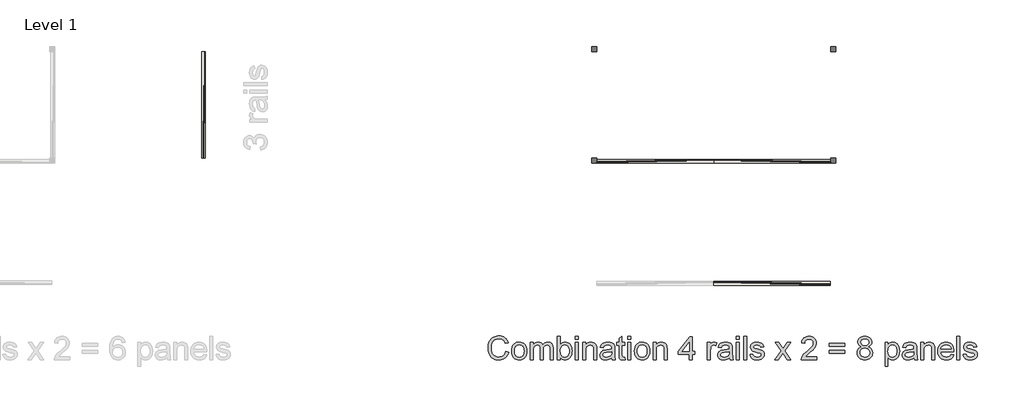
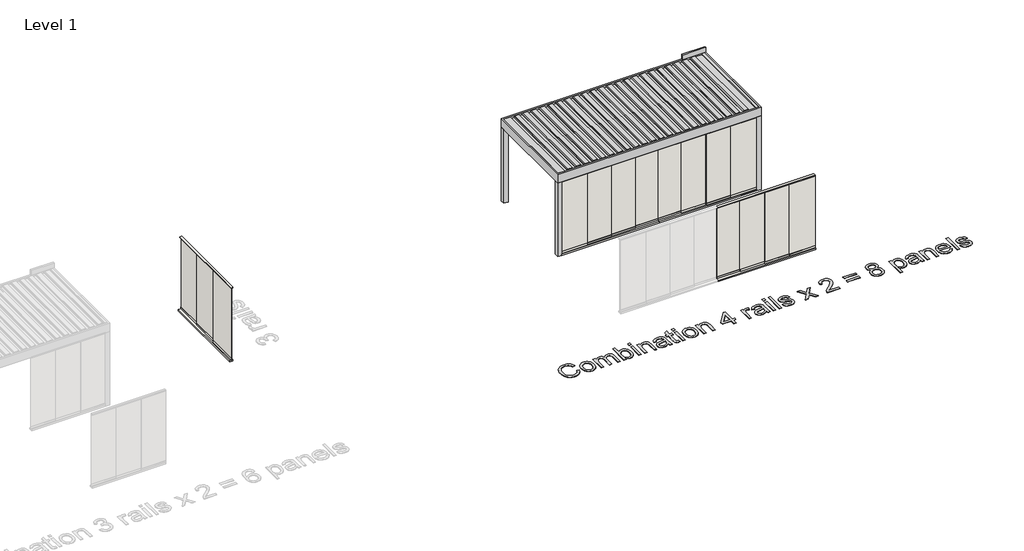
# One storey, part 18 of 47: 4 walls, 2 proxies.
"""IFC4 building model written with IfcOpenShell, lengths in millimetres."""

from ifc_helpers import new_model, si_unit, origin, origin_with_axes, place, context, project, spatial, polyline, outline, extrude, transform, mapped, element, save
from components import generic_models_dd638f6f, wall_bdcc315b, wall_12b1d7bd, wall_39287447

model = new_model("IFC4")

# Units and contexts
model_context = context("Model", 3, world=origin())
ifc_project = project(units=[si_unit("LENGTHUNIT", "METRE", prefix="MILLI")], contexts=[model_context])

# Site, building, storey
site = spatial("IfcSite", under=ifc_project)
building = spatial("IfcBuilding", under=site)
storey = spatial("IfcBuildingStorey", under=building, Name="Level 1", Elevation=0.0)

# Proxies
placement = place(None, origin())
generic_models_shape = generic_models_dd638f6f(model_context)
element("IfcBuildingElementProxy", 1, Name="Renson_Algarve_Single : Algarve - Single", ObjectType="Renson_Algarve_Single : Algarve - Single", at=placement, inside=storey, context=model_context, shape_type="MappedRepresentation", body=[
    mapped(generic_models_shape, transform((204460.1485758, -40247.1209465, 0.0), x_axis=(1.0, 0.0, 0.0), y_axis=(0.0, 1.0, 0.0), z_axis=(0.0, 0.0, 1.0))),
])
element("IfcBuildingElementProxy", 2, Name="500mm Arial", ObjectType="500mm Arial", at=placement, inside=storey, context=model_context, shape_type="SweptSolid", body=[
    extrude(outline(polyline([(200011.1040296, -45527.1410511), (200073.8892234, -45543.3278589), (200061.4655419, -45582.3731678), (200044.9185163, -45616.4903907), (200024.2481467, -45645.6795278), (199999.454433, -45669.9405789), (199971.0968626, -45689.0129611), (199939.7349225, -45702.6360912), (199905.3686128, -45710.8099693), (199867.9979334, -45713.5345953), (199829.7113812, -45711.4729233), (199795.1726268, -45705.2879073), (199764.3816702, -45694.9795472), (199737.3385115, -45680.5478431), (199713.6714365, -45662.2073928), (199693.0087311, -45640.1727941), (199675.3503953, -45614.4440471), (199660.6964291, -45585.0211517), (199649.1886205, -45553.1763665), (199640.9687572, -45520.18195), (199636.0368392, -45486.0379024), (199634.3928665, -45450.7442235), (199636.251437, -45412.8753706), (199641.8271485, -45377.5050496), (199651.120001, -45344.6332605), (199664.1299944, -45314.2600032), (199680.565889, -45286.8872835), (199700.1364447, -45263.017107), (199722.8416616, -45242.6494736), (199748.6815397, -45225.7843834), (199776.778527, -45212.5597921), (199806.2550719, -45203.1136555), (199837.1111743, -45197.4459735), (199869.3468341, -45195.5567461), (199905.2574818, -45198.0016286), (199938.1867524, -45205.3362758), (199968.1346461, -45217.560688), (199995.1011628, -45234.674865), (200018.6417784, -45256.2266185), (200038.3119688, -45281.7637603), (200054.1117341, -45311.2862905), (200066.0410742, -45344.7942088), (200003.2558803, -45359.7547433), (199993.3690517, -45335.0644965), (199981.4895289, -45313.9687633), (199967.617312, -45296.4675438), (199951.752401, -45282.560838), (199933.8028253, -45271.9650701), (199913.6766145, -45264.3966645), (199891.3737685, -45259.8556211), (199866.8942874, -45258.34194), (199838.7283222, -45260.0204016), (199812.9689183, -45265.0557864), (199789.6160758, -45273.4480944), (199768.6697947, -45285.1973256), (199750.3944902, -45299.7746497), (199735.0545774, -45316.6512362), (199722.6500564, -45335.8270852), (199713.1809271, -45357.3021967), (199701.178777, -45403.2567892), (199697.1780603, -45450.6215961), (199701.914541, -45508.624324), (199716.1239831, -45558.7789027), (199726.9151883, -45580.4341231), (199740.3428811, -45599.1692801), (199756.4070616, -45614.9843738), (199775.1077296, -45627.8794041), (199816.785694, -45645.0319022), (199861.7439395, -45650.7494015), (199889.0400171, -45648.8026926), (199914.1517954, -45642.9625659), (199937.0792743, -45633.2290215), (199957.8224539, -45619.6020592), (199975.8908248, -45602.1429929), (199990.7938777, -45580.9131361), (200002.5316126, -45555.9124888), (200011.1040296, -45527.1410511)])), origin_with_axes(), (0.0, 0.0, 1.0), 5.0),
    extrude(outline(polyline([(200136.6744172, -45521.2549392), (200140.0696615, -45473.4839293), (200150.2553942, -45432.3194669), (200167.2316155, -45397.7615519), (200190.9983252, -45369.8101845), (200214.9259833, -45351.9449151), (200241.3368449, -45339.1840084), (200270.2309099, -45331.5274644), (200301.6081784, -45328.9752831), (200336.2465675, -45332.0831195), (200367.5663545, -45341.4066288), (200395.5675392, -45356.945811), (200420.2501219, -45378.7006661), (200440.3954932, -45405.93543), (200454.7850442, -45437.9143389), (200463.4187747, -45474.6373926), (200466.2966849, -45516.1045913), (200461.2076507, -45579.5335786), (200454.8463578, -45605.568894), (200445.9405479, -45627.8180905), (200434.6013518, -45647.0360926), (200420.9399006, -45663.9778249), (200404.9561943, -45678.6432874), (200386.650233, -45691.03248), (200345.9226304, -45707.9090665), (200301.6081784, -45713.5345953), (200266.4639516, -45710.4382552), (200234.8529247, -45701.1492348), (200206.7750978, -45685.6675342), (200182.230471, -45663.9931533), (200162.2996975, -45636.4939742), (200148.0634307, -45603.5378788), (200139.5216706, -45565.1248671), (200136.6744172, -45521.2549392)]), holes=[polyline([(200199.4596111, -45521.1323119), (200201.2760284, -45551.5860433), (200206.7252805, -45577.9547517), (200215.8073672, -45600.2384371), (200228.5222887, -45618.4370996), (200243.9886609, -45632.5737317), (200261.3250999, -45642.671326), (200280.5316058, -45648.7298826), (200301.6081784, -45650.7494015), (200322.5774521, -45648.7183863), (200341.7073159, -45642.6253408), (200358.9977697, -45632.4702649), (200374.4488135, -45618.2531586), (200387.1637349, -45599.8743872), (200396.2458217, -45577.2343161), (200401.6950737, -45550.3329452), (200403.5114911, -45519.1702746), (200401.6835774, -45489.6822334), (200396.1998364, -45464.0033037), (200387.0602681, -45442.1334855), (200374.2648725, -45424.0727788), (200358.7563471, -45409.9361467), (200341.4773896, -45399.8385524), (200322.4280001, -45393.7799958), (200301.6081784, -45391.7604769), (200280.5316058, -45393.7723316), (200261.3250999, -45399.8078955), (200243.9886609, -45409.8671688), (200228.5222887, -45423.9501515), (200215.8073672, -45442.0951645), (200206.7252805, -45464.3405289), (200201.2760284, -45490.6862447), (200199.4596111, -45521.1323119)])]), origin_with_axes(), (0.0, 0.0, 1.0), 5.0),
    extrude(outline(polyline([(200536.930028, -45705.6864461), (200536.930028, -45336.8234323), (200599.7152218, -45336.8234323), (200599.7152218, -45397.5239615), (200618.5998309, -45369.6415719), (200642.8800426, -45347.7985785), (200671.7281224, -45333.6811069), (200704.3163358, -45328.9752831), (200739.2344685, -45333.7730774), (200767.224157, -45348.1664605), (200788.132117, -45371.2050704), (200801.8050645, -45401.9385454), (200824.6903903, -45370.0171181), (200850.7946835, -45347.2160986), (200880.1179442, -45333.535487), (200912.6601724, -45328.9752831), (200937.7949433, -45330.8721746), (200959.8563667, -45336.5628492), (200978.8444426, -45346.0473069), (200994.759171, -45359.3255477), (201007.3399688, -45376.5508557), (201016.326253, -45397.8765151), (201021.7180235, -45423.3025259), (201023.5152803, -45452.8288881), (201023.5152803, -45705.6864461), (200960.7300864, -45705.6864461), (200960.7300864, -45479.8069011), (200959.2738869, -45448.4909462), (200954.9052882, -45427.3837168), (200946.7199138, -45412.92902), (200933.8133871, -45401.5706634), (200917.2127121, -45394.2130235), (200897.9448926, -45391.7604769), (200880.1524332, -45393.3316396), (200863.9311365, -45398.0451276), (200849.2810024, -45405.9009411), (200836.2020311, -45416.8990799), (200825.4453148, -45431.3614408), (200817.7619461, -45449.6099206), (200813.1519248, -45471.6445193), (200811.6152511, -45497.4652368), (200811.6152511, -45705.6864461), (200748.8300572, -45705.6864461), (200748.8300572, -45472.8171432), (200745.1972225, -45437.3165306), (200734.2987184, -45411.9939866), (200725.8719215, -45403.1418261), (200715.1228694, -45396.8188543), (200686.658, -45391.7604769), (200662.4697588, -45395.1327285), (200640.1822413, -45405.2494834), (200621.7881415, -45421.8654868), (200609.2801537, -45444.7354842), (200602.1064548, -45476.4653063), (200599.7152218, -45519.6607839), (200599.7152218, -45705.6864461), (200536.930028, -45705.6864461)])), origin_with_axes(), (0.0, 0.0, 1.0), 5.0),
    extrude(outline(polyline([(201180.4782649, -45705.6864461), (201117.693071, -45705.6864461), (201117.693071, -45203.4048954), (201180.4782649, -45203.4048954), (201180.4782649, -45389.6758123), (201201.1256419, -45363.1193307), (201224.4401633, -45344.1504154), (201250.4218292, -45332.7690661), (201279.0706396, -45328.9752831), (201311.4135983, -45332.3935199), (201341.9784608, -45342.6482305), (201369.0177874, -45359.0956214), (201390.7841388, -45381.091899), (201407.8446663, -45408.4224656), (201420.7665214, -45440.8727233), (201428.9059105, -45477.0937714), (201431.6190403, -45515.7367093), (201428.8101079, -45560.3270728), (201420.383311, -45599.5524905), (201406.3386494, -45633.4129625), (201386.6761232, -45661.9084887), (201363.0741939, -45684.4949103), (201337.2113233, -45700.6280687), (201309.0875111, -45710.3079637), (201278.7027576, -45713.5345953), (201249.1112496, -45709.3729303), (201222.8766648, -45696.8879351), (201199.9990033, -45676.0796097), (201180.4782649, -45646.9479542), (201180.4782649, -45705.6864461)]), holes=[polyline([(201180.4782649, -45518.6797652), (201184.7702215, -45571.0416359), (201190.1351673, -45590.8766068), (201197.6460913, -45606.4809347), (201212.8595447, -45625.848389), (201230.5408731, -45639.6822848), (201250.6900765, -45647.9826223), (201273.307155, -45650.7494015), (201292.0844652, -45648.7107221), (201309.5435315, -45642.5946839), (201325.6843541, -45632.401287), (201340.5069328, -45618.1305313), (201352.8999575, -45599.8207378), (201361.752118, -45577.5102276), (201367.0634143, -45551.1990008), (201368.8338464, -45520.8870572), (201367.1362243, -45490.000298), (201362.0433579, -45463.4361523), (201353.5552473, -45441.19462), (201341.6718924, -45423.2757011), (201327.3819762, -45409.4877905), (201311.6741814, -45399.639283), (201294.5485081, -45393.7301784), (201276.0049563, -45391.7604769), (201257.2276461, -45393.7991563), (201239.7685798, -45399.9151945), (201223.6277572, -45410.1085914), (201208.8051785, -45424.3793471), (201196.4121538, -45442.5051996), (201187.5599933, -45464.2638868), (201182.248697, -45489.6554087), (201180.4782649, -45518.6797652)])]), origin_with_axes(), (0.0, 0.0, 1.0), 5.0),
    extrude(outline(polyline([(201502.2523833, -45705.6864461), (201502.2523833, -45336.8234323), (201565.0375772, -45336.8234323), (201565.0375772, -45705.6864461), (201502.2523833, -45705.6864461)])), origin_with_axes(), (0.0, 0.0, 1.0), 5.0),
    extrude(outline(polyline([(201502.2523833, -45266.1900892), (201502.2523833, -45203.4048954), (201565.0375772, -45203.4048954), (201565.0375772, -45266.1900892), (201502.2523833, -45266.1900892)])), origin_with_axes(), (0.0, 0.0, 1.0), 5.0),
    extrude(outline(polyline([(201659.2153679, -45705.6864461), (201659.2153679, -45336.8234323), (201722.0005618, -45336.8234323), (201722.0005618, -45388.3269116), (201743.8128984, -45362.3605741), (201770.0091622, -45343.8131902), (201800.589353, -45332.6847598), (201835.553471, -45328.9752831), (201866.5015438, -45331.9643243), (201894.8437859, -45340.9314479), (201918.480204, -45354.7576795), (201935.3108053, -45372.3240448), (201946.7304756, -45393.5845585), (201954.1341007, -45418.4932352), (201957.4450387, -45479.1937644), (201957.4450387, -45705.6864461), (201894.6598449, -45705.6864461), (201894.6598449, -45487.6550503), (201892.8510917, -45455.1894642), (201887.4248323, -45432.104869), (201877.4153763, -45415.5655077), (201861.8570336, -45402.7356231), (201841.9147638, -45394.5042634), (201818.7535265, -45391.7604769), (201799.6888085, -45393.3009827), (201781.9806554, -45397.9225003), (201765.6290672, -45405.6250296), (201750.6340437, -45416.4085706), (201738.1068954, -45431.4993966), (201729.1589323, -45452.1237809), (201723.7901544, -45478.2817236), (201722.0005618, -45509.9732247), (201722.0005618, -45705.6864461), (201659.2153679, -45705.6864461)])), origin_with_axes(), (0.0, 0.0, 1.0), 5.0),
    extrude(outline(polyline([(202279.2191572, -45658.5975507), (202249.2214461, -45684.3186336), (202218.3346869, -45701.1492348), (202185.8537725, -45710.4382552), (202151.0735955, -45713.5345953), (202123.118396, -45711.6721927), (202098.6044259, -45706.0849849), (202077.5316854, -45696.7729719), (202059.9001744, -45683.7361537), (202045.9781401, -45667.8022648), (202036.0338299, -45649.7990397), (202030.0672438, -45629.7264783), (202028.0783818, -45607.5845807), (202031.0827514, -45581.5569296), (202040.0958603, -45557.9205114), (202053.998734, -45537.6870016), (202071.6723982, -45521.8680759), (202092.4424025, -45509.911911), (202115.6342966, -45501.2666841), (202169.9582046, -45491.8243796), (202234.1536127, -45481.8915657), (202278.8512752, -45470.2419692), (202279.2191572, -45456.2624534), (202274.8965437, -45428.2421081), (202261.9287034, -45409.909322), (202248.8535641, -45401.9692023), (202232.9273394, -45396.2976882), (202192.5216336, -45391.7604769), (202155.1202974, -45394.7801749), (202129.0006758, -45403.8392691), (202111.1890559, -45420.5932283), (202098.7117249, -45446.6975215), (202035.926531, -45438.8493723), (202046.8250351, -45404.5137194), (202063.088485, -45377.5357064), (202086.2343938, -45356.9036579), (202117.7802749, -45341.6058982), (202156.3618992, -45332.1329368), (202200.6150375, -45328.9752831), (202243.0594227, -45331.7650548), (202276.7052969, -45340.1343702), (202302.0738261, -45352.7190002), (202319.6861766, -45368.1547155), (202331.36643, -45387.238594), (202338.9386677, -45410.7677133), (202342.004351, -45465.7047579), (202342.004351, -45543.8183682), (202345.1926616, -45652.8953798), (202349.9138139, -45679.8580644), (202357.7006495, -45705.6864461), (202294.9154556, -45705.6864461), (202284.8600144, -45683.8587811), (202279.2191572, -45658.5975507)]), holes=[polyline([(202279.2191572, -45533.027163), (202237.035355, -45543.4811431), (202177.9289811, -45552.2796541), (202123.9116415, -45562.4577227), (202109.8554836, -45569.4168237), (202099.4474888, -45579.0124124), (202093.0095539, -45590.5087248), (202090.8635756, -45603.1699968), (202095.5387426, -45621.840008), (202109.5642437, -45637.1377677), (202132.6335105, -45647.346493), (202164.4399747, -45650.7494015), (202198.1624909, -45646.9939395), (202227.9609325, -45635.7275534), (202252.1185168, -45619.1268783), (202268.9184613, -45599.3685495), (202276.3680717, -45579.0124124), (202278.8512752, -45550.8081261), (202279.2191572, -45533.027163)])]), origin_with_axes(), (0.0, 0.0, 1.0), 5.0),
    extrude(outline(polyline([(202561.7525294, -45653.3245755), (202569.6006787, -45707.5258561), (202522.6344106, -45713.5345953), (202492.4987439, -45710.9287645), (202470.0272853, -45703.1112721), (202454.1470459, -45691.0631368), (202443.7850363, -45675.7653772), (202438.0828654, -45649.4924713), (202436.1821418, -45604.5188974), (202436.1821418, -45399.6086261), (202389.0932464, -45399.6086261), (202389.0932464, -45336.8234323), (202436.1821418, -45336.8234323), (202436.1821418, -45247.1828528), (202498.9673356, -45210.2720259), (202498.9673356, -45336.8234323), (202561.7525294, -45336.8234323), (202561.7525294, -45399.6086261), (202498.9673356, -45399.6086261), (202498.9673356, -45602.6794875), (202502.2782736, -45635.053103), (202513.0081651, -45646.5187586), (202534.4066345, -45650.7494015), (202561.7525294, -45653.3245755)])), origin_with_axes(), (0.0, 0.0, 1.0), 5.0),
    extrude(outline(polyline([(202624.5377233, -45705.6864461), (202624.5377233, -45336.8234323), (202687.3229171, -45336.8234323), (202687.3229171, -45705.6864461), (202624.5377233, -45705.6864461)])), origin_with_axes(), (0.0, 0.0, 1.0), 5.0),
    extrude(outline(polyline([(202624.5377233, -45266.1900892), (202624.5377233, -45203.4048954), (202687.3229171, -45203.4048954), (202687.3229171, -45266.1900892), (202624.5377233, -45266.1900892)])), origin_with_axes(), (0.0, 0.0, 1.0), 5.0),
    extrude(outline(polyline([(202765.8044094, -45521.2549392), (202769.1996537, -45473.4839293), (202779.3853864, -45432.3194669), (202796.3616077, -45397.7615519), (202820.1283174, -45369.8101845), (202844.0559755, -45351.9449151), (202870.4668371, -45339.1840084), (202899.3609021, -45331.5274644), (202930.7381706, -45328.9752831), (202965.3765597, -45332.0831195), (202996.6963467, -45341.4066288), (203024.6975314, -45356.945811), (203049.3801141, -45378.7006661), (203069.5254854, -45405.93543), (203083.9150364, -45437.9143389), (203092.5487669, -45474.6373926), (203095.4266771, -45516.1045913), (203090.3376429, -45579.5335786), (203083.97635, -45605.568894), (203075.0705401, -45627.8180905), (203063.731344, -45647.0360926), (203050.0698928, -45663.9778249), (203034.0861865, -45678.6432874), (203015.7802252, -45691.03248), (202975.0526226, -45707.9090665), (202930.7381706, -45713.5345953), (202895.5939438, -45710.4382552), (202863.9829169, -45701.1492348), (202835.90509, -45685.6675342), (202811.3604632, -45663.9931533), (202791.4296897, -45636.4939742), (202777.1934229, -45603.5378788), (202768.6516628, -45565.1248671), (202765.8044094, -45521.2549392)]), holes=[polyline([(202828.5896033, -45521.1323119), (202830.4060206, -45551.5860433), (202835.8552727, -45577.9547517), (202844.9373594, -45600.2384371), (202857.6522809, -45618.4370996), (202873.1186531, -45632.5737317), (202890.4550921, -45642.671326), (202909.661598, -45648.7298826), (202930.7381706, -45650.7494015), (202951.7074443, -45648.7183863), (202970.8373081, -45642.6253408), (202988.1277619, -45632.4702649), (203003.5788057, -45618.2531586), (203016.2937271, -45599.8743872), (203025.3758139, -45577.2343161), (203030.8250659, -45550.3329452), (203032.6414833, -45519.1702746), (203030.8135696, -45489.6822334), (203025.3298286, -45464.0033037), (203016.1902603, -45442.1334855), (203003.3948647, -45424.0727788), (202987.8863393, -45409.9361467), (202970.6073818, -45399.8385524), (202951.5579923, -45393.7799958), (202930.7381706, -45391.7604769), (202909.661598, -45393.7723316), (202890.4550921, -45399.8078955), (202873.1186531, -45409.8671688), (202857.6522809, -45423.9501515), (202844.9373594, -45442.0951645), (202835.8552727, -45464.3405289), (202830.4060206, -45490.6862447), (202828.5896033, -45521.1323119)])]), origin_with_axes(), (0.0, 0.0, 1.0), 5.0),
    extrude(outline(polyline([(203166.0600202, -45705.6864461), (203166.0600202, -45336.8234323), (203228.845214, -45336.8234323), (203228.845214, -45388.3269116), (203250.6575507, -45362.3605741), (203276.8538144, -45343.8131902), (203307.4340053, -45332.6847598), (203342.3981232, -45328.9752831), (203373.3461961, -45331.9643243), (203401.6884381, -45340.9314479), (203425.3248563, -45354.7576795), (203442.1554576, -45372.3240448), (203453.5751278, -45393.5845585), (203460.978753, -45418.4932352), (203464.2896909, -45479.1937644), (203464.2896909, -45705.6864461), (203401.5044971, -45705.6864461), (203401.5044971, -45487.6550503), (203399.695744, -45455.1894642), (203394.2694845, -45432.104869), (203384.2600286, -45415.5655077), (203368.7016859, -45402.7356231), (203348.759416, -45394.5042634), (203325.5981788, -45391.7604769), (203306.5334608, -45393.3009827), (203288.8253077, -45397.9225003), (203272.4737194, -45405.6250296), (203257.478696, -45416.4085706), (203244.9515476, -45431.4993966), (203236.0035845, -45452.1237809), (203230.6348067, -45478.2817236), (203228.845214, -45509.9732247), (203228.845214, -45705.6864461), (203166.0600202, -45705.6864461)])), origin_with_axes(), (0.0, 0.0, 1.0), 5.0),
    extrude(outline(polyline([(203935.1786448, -45705.6864461), (203935.1786448, -45587.9642077), (203707.5823171, -45587.9642077), (203707.5823171, -45525.1790138), (203950.8749432, -45211.2530446), (203997.9638386, -45211.2530446), (203997.9638386, -45525.1790138), (204060.7490325, -45525.1790138), (204060.7490325, -45587.9642077), (203997.9638386, -45587.9642077), (203997.9638386, -45705.6864461), (203935.1786448, -45705.6864461)]), holes=[polyline([(203935.1786448, -45525.1790138), (203935.1786448, -45331.182575), (203784.8375361, -45525.1790138), (203935.1786448, -45525.1790138)])]), origin_with_axes(), (0.0, 0.0, 1.0), 5.0),
    extrude(outline(polyline([(204327.5861063, -45705.6864461), (204327.5861063, -45336.8234323), (204382.5231509, -45336.8234323), (204382.5231509, -45391.3925949), (204402.8179743, -45359.7547433), (204421.5186424, -45341.1153889), (204440.2806242, -45332.0103095), (204460.7593885, -45328.9752831), (204492.0293581, -45333.8190627), (204523.7898371, -45348.3504015), (204502.8205633, -45404.6363467), (204480.7476436, -45394.9794444), (204458.6747239, -45391.7604769), (204439.9280706, -45394.856817), (204423.1741114, -45404.1458374), (204409.6391196, -45418.9224309), (204400.5493687, -45438.4814903), (204392.9158173, -45473.5529072), (204390.3713001, -45511.8126347), (204390.3713001, -45705.6864461), (204327.5861063, -45705.6864461)])), origin_with_axes(), (0.0, 0.0, 1.0), 5.0),
    extrude(outline(polyline([(204798.4750601, -45658.5975507), (204768.4773491, -45684.3186336), (204737.5905899, -45701.1492348), (204705.1096754, -45710.4382552), (204670.3294985, -45713.5345953), (204642.3742989, -45711.6721927), (204617.8603289, -45706.0849849), (204596.7875884, -45696.7729719), (204579.1560773, -45683.7361537), (204565.2340431, -45667.8022648), (204555.2897329, -45649.7990397), (204549.3231468, -45629.7264783), (204547.3342847, -45607.5845807), (204550.3386544, -45581.5569296), (204559.3517633, -45557.9205114), (204573.254637, -45537.6870016), (204590.9283012, -45521.8680759), (204611.6983055, -45509.911911), (204634.8901996, -45501.2666841), (204689.2141076, -45491.8243796), (204753.4095157, -45481.8915657), (204798.1071781, -45470.2419692), (204798.4750601, -45456.2624534), (204794.1524467, -45428.2421081), (204781.1846063, -45409.909322), (204768.1094671, -45401.9692023), (204752.1832424, -45396.2976882), (204711.7775366, -45391.7604769), (204674.3762004, -45394.7801749), (204648.2565788, -45403.8392691), (204630.4449588, -45420.5932283), (204617.9676278, -45446.6975215), (204555.182434, -45438.8493723), (204566.0809381, -45404.5137194), (204582.344388, -45377.5357064), (204605.4902968, -45356.9036579), (204637.0361779, -45341.6058982), (204675.6178021, -45332.1329368), (204719.8709405, -45328.9752831), (204762.3153257, -45331.7650548), (204795.9611998, -45340.1343702), (204821.3297291, -45352.7190002), (204838.9420796, -45368.1547155), (204850.6223329, -45387.238594), (204858.1945707, -45410.7677133), (204861.260254, -45465.7047579), (204861.260254, -45543.8183682), (204864.4485646, -45652.8953798), (204869.1697169, -45679.8580644), (204876.9565524, -45705.6864461), (204814.1713586, -45705.6864461), (204804.1159174, -45683.8587811), (204798.4750601, -45658.5975507)]), holes=[polyline([(204798.4750601, -45533.027163), (204756.291258, -45543.4811431), (204697.1848841, -45552.2796541), (204643.1675445, -45562.4577227), (204629.1113866, -45569.4168237), (204618.7033918, -45579.0124124), (204612.2654569, -45590.5087248), (204610.1194786, -45603.1699968), (204614.7946456, -45621.840008), (204628.8201467, -45637.1377677), (204651.8894135, -45647.346493), (204683.6958776, -45650.7494015), (204717.4183939, -45646.9939395), (204747.2168355, -45635.7275534), (204771.3744198, -45619.1268783), (204788.1743643, -45599.3685495), (204795.6239747, -45579.0124124), (204798.1071781, -45550.8081261), (204798.4750601, -45533.027163)])]), origin_with_axes(), (0.0, 0.0, 1.0), 5.0),
    extrude(outline(polyline([(204947.5898955, -45266.1900892), (204947.5898955, -45203.4048954), (205010.3750893, -45203.4048954), (205010.3750893, -45266.1900892), (204947.5898955, -45266.1900892)])), origin_with_axes(), (0.0, 0.0, 1.0), 5.0),
    extrude(outline(polyline([(204947.5898955, -45705.6864461), (204947.5898955, -45336.8234323), (205010.3750893, -45336.8234323), (205010.3750893, -45705.6864461), (204947.5898955, -45705.6864461)])), origin_with_axes(), (0.0, 0.0, 1.0), 5.0),
    extrude(outline(polyline([(205104.5528801, -45705.6864461), (205104.5528801, -45203.4048954), (205167.338074, -45203.4048954), (205167.338074, -45705.6864461), (205104.5528801, -45705.6864461)])), origin_with_axes(), (0.0, 0.0, 1.0), 5.0),
    extrude(outline(polyline([(205237.971417, -45595.8123569), (205300.7566109, -45587.9642077), (205310.6587679, -45614.8195933), (205329.8192885, -45634.5625937), (205358.3607999, -45646.7026996), (205396.4059296, -45650.7494015), (205433.9912068, -45647.0399247), (205460.4173968, -45635.9114944), (205476.0523816, -45619.7860002), (205481.2640432, -45601.0853322), (205476.0217247, -45585.0824654), (205460.2947694, -45572.8810459), (205395.6701656, -45554.9774554), (205338.3725449, -45538.4074372), (205301.1244929, -45524.2593088), (205277.1968348, -45508.8235934), (205259.8603957, -45488.3908143), (205249.3297736, -45464.2638868), (205245.8195663, -45437.7457263), (205248.6399949, -45413.4195294), (205257.1012808, -45390.9633992), (205270.4370031, -45371.2663841), (205287.880741, -45355.217532), (205305.2171801, -45345.1161056), (205327.7959375, -45336.6394913), (205353.9002308, -45330.8913351), (205381.8132771, -45328.9752831), (205422.6788354, -45332.0562948), (205458.2101048, -45341.2993299), (205486.7822731, -45355.8000119), (205506.7705282, -45374.6539641), (205520.01428, -45399.2560725), (205528.3529386, -45431.001223), (205465.5677447, -45438.8493723), (205457.6429534, -45419.0910435), (205441.9619834, -45404.2071511), (205418.3715504, -45394.8721454), (205386.7183704, -45391.7604769), (205350.6659349, -45394.7341897), (205326.6309779, -45403.6553281), (205313.1113145, -45416.5311979), (205308.6047601, -45431.369105), (205310.4748269, -45441.0260074), (205316.0850273, -45449.6405775), (205325.680616, -45457.3354425), (205339.5068477, -45463.497466), (205393.585501, -45476.8638451), (205485.7399408, -45506.4170321), (205510.0814661, -45520.549832), (205528.5368796, -45539.8942936), (205540.1711476, -45564.5117305), (205544.049237, -45594.4634562), (205539.4966973, -45625.4268575), (205525.8390783, -45654.5508488), (205503.597546, -45679.551496), (205473.2932666, -45698.1448652), (205436.6890081, -45709.6871628), (205395.5475383, -45713.5345953), (205361.7560442, -45711.679857), (205332.2411783, -45706.1156418), (205307.0029406, -45696.8419498), (205286.0413311, -45683.8587811), (205268.9194899, -45667.2274492), (205255.2005571, -45647.0092679), (205244.8845329, -45623.2042371), (205237.971417, -45595.8123569)])), origin_with_axes(), (0.0, 0.0, 1.0), 5.0),
    extrude(outline(polyline([(205771.6455647, -45705.6864461), (205905.7998656, -45520.2739205), (205779.4937139, -45336.8234323), (205855.0321503, -45336.8234323), (205915.9779341, -45425.1151111), (205944.4274751, -45466.8084039), (205969.0755688, -45432.7180057), (206038.4826385, -45336.8234323), (206114.0210749, -45336.8234323), (205981.3383019, -45520.2739205), (206109.1159816, -45705.6864461), (206033.5775453, -45705.6864461), (205956.6902083, -45594.2182016), (205942.5880651, -45573.8620645), (205847.184001, -45705.6864461), (205771.6455647, -45705.6864461)])), origin_with_axes(), (0.0, 0.0, 1.0), 5.0),
    extrude(outline(polyline([(206666.334577, -45642.9012523), (206666.334577, -45705.6864461), (206336.7123093, -45705.6864461), (206338.0918668, -45683.5828696), (206343.4568125, -45662.398998), (206358.9385132, -45628.5691829), (206381.5939127, -45595.7510432), (206414.3660671, -45561.4000619), (206460.1980323, -45522.9717218), (206527.9496331, -45462.7923588), (206568.6005936, -45418.3706079), (206588.9260738, -45382.3181724), (206594.0074439, -45364.6598366), (206595.7012339, -45347.2467555), (206594.1032465, -45330.8645104), (206589.3092842, -45315.8081733), (206581.3193471, -45302.0777443), (206570.1334352, -45289.6732232), (206556.3723493, -45279.3993521), (206540.6568904, -45272.0608727), (206522.9870583, -45267.6577851), (206503.3628531, -45266.1900892), (206464.198749, -45271.922917), (206447.893146, -45279.0889517), (206433.7718423, -45289.1214002), (206422.34834, -45301.6830375), (206414.1361409, -45316.4366384), (206409.135245, -45333.3822028), (206407.3456524, -45352.5197307), (206344.5604585, -45344.6715815), (206349.9598932, -45312.2596449), (206359.7815761, -45283.9403955), (206374.0255071, -45259.7138333), (206392.6916862, -45239.5799582), (206415.3509179, -45223.7533682), (206441.5740063, -45212.4486611), (206471.3609516, -45205.6658368), (206504.7117538, -45203.4048954), (206538.36146, -45205.9187557), (206568.3093537, -45213.4603366), (206594.5554348, -45226.0296381), (206617.0997033, -45243.6266602), (206635.2063952, -45264.9484875), (206648.1397466, -45288.6922046), (206655.8997575, -45314.8578115), (206658.4864277, -45343.4453082), (206655.6966559, -45373.4736761), (206647.3273405, -45402.9808777), (206632.474105, -45432.9939172), (206610.2325727, -45464.5397983), (206574.7779454, -45502.2017175), (206520.2854249, -45550.5628715), (206448.0579265, -45610.9568324), (206419.7310129, -45642.9012523), (206666.334577, -45642.9012523)])), origin_with_axes(), (0.0, 0.0, 1.0), 5.0),
    extrude(outline(polyline([(207262.7939185, -45415.3049246), (206933.1716508, -45415.3049246), (206933.1716508, -45352.5197307), (207262.7939185, -45352.5197307), (207262.7939185, -45415.3049246)])), origin_with_axes(), (0.0, 0.0, 1.0), 5.0),
    extrude(outline(polyline([(207262.7939185, -45564.41976), (206933.1716508, -45564.41976), (206933.1716508, -45501.6345661), (207262.7939185, -45501.6345661), (207262.7939185, -45564.41976)])), origin_with_axes(), (0.0, 0.0, 1.0), 5.0),
    extrude(outline(polyline([(207621.1109818, -45429.0391857), (207587.4957645, -45412.484496), (207563.9053315, -45390.0436943), (207549.971801, -45362.1766331), (207545.3272908, -45329.343165), (207547.8564795, -45303.7370453), (207555.4440456, -45280.2615755), (207568.0899892, -45258.9167556), (207585.7943102, -45239.7025856), (207607.7062816, -45223.8223461), (207632.9751761, -45212.4793179), (207661.6009939, -45205.673501), (207693.5837348, -45203.4048954), (207725.71976, -45205.7271505), (207754.5601755, -45212.6939157), (207780.1049816, -45224.3051912), (207802.3541781, -45240.5609769), (207820.3803958, -45260.1506931), (207833.2562657, -45281.7637603), (207840.9817876, -45305.4001785), (207843.5569615, -45331.0599477), (207838.973765, -45362.835755), (207825.2241754, -45390.2276352), (207802.1549087, -45412.5304812), (207769.6126805, -45429.0391857), (207790.2485612, -45437.8185363), (207808.2556184, -45448.9507987), (207823.6338522, -45462.4359731), (207836.3832626, -45478.2740594), (207846.3888865, -45496.1125041), (207853.5357607, -45515.5987535), (207859.25326, -45559.5146667), (207856.4175029, -45590.8306215), (207847.9102318, -45619.5407456), (207833.7314466, -45645.6450388), (207813.8811473, -45669.1435013), (207789.4016662, -45688.5646049), (207761.3353356, -45702.4368218), (207729.6821556, -45710.760152), (207694.4421262, -45713.5345953), (207659.2020967, -45710.7486557), (207627.5489167, -45702.3908366), (207599.4825861, -45688.4611381), (207575.0031051, -45668.9595603), (207555.1528057, -45645.2963173), (207540.9740205, -45618.8816237), (207532.4667494, -45589.7154792), (207529.6309923, -45557.7978841), (207531.1178487, -45533.9775249), (207535.5784179, -45512.1805166), (207543.0126999, -45492.4068594), (207553.4206947, -45474.6565531), (207566.572476, -45459.2514946), (207582.2381176, -45446.5135805), (207600.4176196, -45436.4428109), (207621.1109818, -45429.0391857)]), holes=[polyline([(207608.1124846, -45331.182575), (207613.6766998, -45358.5897837), (207630.3693453, -45380.4787624), (207642.7662021, -45388.8480778), (207657.6999119, -45394.8261602), (207695.1778901, -45399.6086261), (207731.7821487, -45394.856817), (207746.4514432, -45388.9170556), (207758.698848, -45380.6013897), (207775.2535378, -45359.448175), (207780.7717677, -45334.0030037), (207775.0695968, -45307.5921421), (207757.963084, -45285.7491486), (207745.4397677, -45277.1920601), (207730.6785027, -45271.0798541), (207694.4421262, -45266.1900892), (207657.9758234, -45270.9725551), (207643.203062, -45276.9506376), (207630.7372273, -45285.319953), (207613.7686703, -45306.3505403), (207608.1124846, -45331.182575)]), polyline([(207592.4161862, -45555.5905921), (207595.0373454, -45579.6102207), (207602.900823, -45602.8634285), (207617.4168334, -45623.1429234), (207639.9955909, -45638.2414137), (207667.0349175, -45647.6224045), (207694.9326355, -45650.7494015), (207717.6340203, -45649.1054288), (207737.6682606, -45644.1735108), (207755.0353564, -45635.9536475), (207769.7353078, -45624.4458388), (207781.4308896, -45610.4011773), (207789.7848766, -45594.5707552), (207794.7972688, -45576.9545725), (207796.4680661, -45557.5526294), (207794.7436193, -45537.8402858), (207789.5702787, -45519.9060385), (207780.9480445, -45503.7498876), (207768.8769165, -45489.3718329), (207753.7784263, -45477.5689523), (207736.0741053, -45469.1383232), (207715.7639535, -45464.0799458), (207692.8479708, -45462.39382), (207670.4799791, -45464.0569532), (207650.710154, -45469.0463527), (207633.5384954, -45477.3620186), (207618.9650035, -45489.003951), (207607.3498959, -45503.1444151), (207599.0533905, -45518.9556767), (207594.0754872, -45536.4377357), (207592.4161862, -45555.5905921)])]), origin_with_axes(), (0.0, 0.0, 1.0), 5.0),
    extrude(outline(polyline([(208126.0903338, -45846.9531323), (208126.0903338, -45336.8234323), (208188.8755277, -45336.8234323), (208188.8755277, -45398.3823528), (208209.3542921, -45368.0167598), (208232.2856031, -45346.3270505), (208259.0183614, -45333.3132249), (208290.9014677, -45328.9752831), (208312.7981106, -45330.4927963), (208333.3611813, -45335.045336), (208352.5906797, -45342.6329021), (208370.486606, -45353.2554947), (208386.6580853, -45366.6372023), (208400.7142432, -45382.5021133), (208422.4805946, -45421.6815458), (208435.6323759, -45467.9427067), (208440.016303, -45518.4345106), (208435.0652245, -45572.1299534), (208420.211989, -45620.1538822), (208409.1908575, -45641.4297243), (208395.9317773, -45660.0690787), (208380.4347482, -45676.0719455), (208362.6997704, -45689.4383247), (208323.9955188, -45707.5105277), (208283.2985731, -45713.5345953), (208254.4351649, -45709.5032218), (208228.6680968, -45697.4091012), (208206.6105055, -45679.1529572), (208188.8755277, -45656.6355134), (208188.8755277, -45846.9531323), (208126.0903338, -45846.9531323)]), holes=[polyline([(208188.8755277, -45524.1979952), (208190.5731498, -45554.4562893), (208195.6660162, -45580.4839404), (208204.1541268, -45602.2809486), (208216.0374816, -45619.8473139), (208230.3427263, -45633.3669772), (208246.0965063, -45643.0238796), (208263.2988217, -45648.818021), (208281.9496725, -45650.7494015), (208300.8687705, -45648.7490432), (208318.3853184, -45642.7479681), (208334.4993162, -45632.7461764), (208349.2107639, -45618.7436679), (208361.469665, -45600.5411734), (208370.2260229, -45577.9394233), (208375.4798376, -45550.9384177), (208377.2311092, -45519.5381566), (208375.5219908, -45489.5404455), (208370.3946355, -45463.5587796), (208361.8490433, -45441.5931588), (208349.8852142, -45423.6435831), (208335.5454806, -45409.6947242), (208319.8721748, -45399.7312535), (208302.8652967, -45393.753171), (208284.5248464, -45391.7604769), (208266.2418777, -45393.8796305), (208249.0395623, -45400.2370912), (208232.9179003, -45410.8328591), (208217.8768916, -45425.6669341), (208205.1887949, -45444.5400469), (208196.1258687, -45467.252928), (208190.6881129, -45493.8055774), (208188.8755277, -45524.1979952)])]), origin_with_axes(), (0.0, 0.0, 1.0), 5.0),
    extrude(outline(polyline([(208746.094123, -45658.5975507), (208716.096412, -45684.3186336), (208685.2096528, -45701.1492348), (208652.7287383, -45710.4382552), (208617.9485614, -45713.5345953), (208589.9933618, -45711.6721927), (208565.4793918, -45706.0849849), (208544.4066513, -45696.7729719), (208526.7751402, -45683.7361537), (208512.853106, -45667.8022648), (208502.9087958, -45649.7990397), (208496.9422097, -45629.7264783), (208494.9533477, -45607.5845807), (208497.9577173, -45581.5569296), (208506.9708262, -45557.9205114), (208520.8736999, -45537.6870016), (208538.5473641, -45521.8680759), (208559.3173684, -45509.911911), (208582.5092625, -45501.2666841), (208636.8331705, -45491.8243796), (208701.0285786, -45481.8915657), (208745.726241, -45470.2419692), (208746.094123, -45456.2624534), (208741.7715096, -45428.2421081), (208728.8036693, -45409.909322), (208715.72853, -45401.9692023), (208699.8023053, -45396.2976882), (208659.3965995, -45391.7604769), (208621.9952633, -45394.7801749), (208595.8756417, -45403.8392691), (208578.0640217, -45420.5932283), (208565.5866907, -45446.6975215), (208502.8014969, -45438.8493723), (208513.700001, -45404.5137194), (208529.9634509, -45377.5357064), (208553.1093597, -45356.9036579), (208584.6552408, -45341.6058982), (208623.2368651, -45332.1329368), (208667.4900034, -45328.9752831), (208709.9343886, -45331.7650548), (208743.5802627, -45340.1343702), (208768.948792, -45352.7190002), (208786.5611425, -45368.1547155), (208798.2413958, -45387.238594), (208805.8136336, -45410.7677133), (208808.8793169, -45465.7047579), (208808.8793169, -45543.8183682), (208812.0676275, -45652.8953798), (208816.7887798, -45679.8580644), (208824.5756153, -45705.6864461), (208761.7904215, -45705.6864461), (208751.7349803, -45683.8587811), (208746.094123, -45658.5975507)]), holes=[polyline([(208746.094123, -45533.027163), (208703.9103209, -45543.4811431), (208644.803947, -45552.2796541), (208590.7866074, -45562.4577227), (208576.7304495, -45569.4168237), (208566.3224547, -45579.0124124), (208559.8845198, -45590.5087248), (208557.7385415, -45603.1699968), (208562.4137085, -45621.840008), (208576.4392096, -45637.1377677), (208599.5084764, -45647.346493), (208631.3149405, -45650.7494015), (208665.0374568, -45646.9939395), (208694.8358984, -45635.7275534), (208718.9934827, -45619.1268783), (208735.7934272, -45599.3685495), (208743.2430376, -45579.0124124), (208745.726241, -45550.8081261), (208746.094123, -45533.027163)])]), origin_with_axes(), (0.0, 0.0, 1.0), 5.0),
    extrude(outline(polyline([(208895.2089584, -45705.6864461), (208895.2089584, -45336.8234323), (208957.9941523, -45336.8234323), (208957.9941523, -45388.3269116), (208979.8064889, -45362.3605741), (209006.0027526, -45343.8131902), (209036.5829435, -45332.6847598), (209071.5470614, -45328.9752831), (209102.4951343, -45331.9643243), (209130.8373763, -45340.9314479), (209154.4737945, -45354.7576795), (209171.3043958, -45372.3240448), (209182.7240661, -45393.5845585), (209190.1276912, -45418.4932352), (209193.4386292, -45479.1937644), (209193.4386292, -45705.6864461), (209130.6534353, -45705.6864461), (209130.6534353, -45487.6550503), (209128.8446822, -45455.1894642), (209123.4184228, -45432.104869), (209113.4089668, -45415.5655077), (209097.8506241, -45402.7356231), (209077.9083543, -45394.5042634), (209054.747117, -45391.7604769), (209035.682399, -45393.3009827), (209017.9742459, -45397.9225003), (209001.6226576, -45405.6250296), (208986.6276342, -45416.4085706), (208974.1004859, -45431.4993966), (208965.1525227, -45452.1237809), (208959.7837449, -45478.2817236), (208957.9941523, -45509.9732247), (208957.9941523, -45705.6864461), (208895.2089584, -45705.6864461)])), origin_with_axes(), (0.0, 0.0, 1.0), 5.0),
    extrude(outline(polyline([(209538.0214313, -45595.8123569), (209599.5803518, -45603.6605061), (209590.1418794, -45628.316264), (209577.4001332, -45650.0442943), (209561.3551133, -45668.8445971), (209542.0068196, -45684.7171724), (209519.5545216, -45697.3247949), (209494.1974886, -45706.3302396), (209465.9357208, -45711.7335064), (209434.769218, -45713.5345953), (209395.8120476, -45710.4267589), (209361.1008485, -45701.1032496), (209330.6356207, -45685.5640674), (209304.4163644, -45663.8092123), (209283.3321275, -45636.4441568), (209268.2719584, -45604.0743734), (209259.2358568, -45566.6998619), (209256.223823, -45524.3206225), (209259.2665137, -45480.504344), (209268.3945857, -45441.8843987), (209283.608039, -45408.4607866), (209304.9068737, -45380.2335077), (209331.0571522, -45357.8080344), (209360.824937, -45341.7898392), (209394.210228, -45332.1789221), (209431.2130254, -45328.9752831), (209467.0240384, -45332.1712579), (209499.4091502, -45341.7591824), (209528.368361, -45357.7390565), (209553.9016708, -45380.1108804), (209574.7444851, -45408.2768456), (209589.6322096, -45441.6391441), (209598.5648443, -45480.1977757), (209601.5423892, -45523.9527405), (209601.1745072, -45540.8753123), (209319.0090169, -45540.8753123), (209322.6456837, -45565.929609), (209329.8768641, -45587.8722372), (209340.7025583, -45606.7031968), (209355.122766, -45622.4224879), (209372.3404098, -45634.8155126), (209391.558412, -45643.6676731), (209412.7767725, -45648.9789694), (209435.9954913, -45650.7494015), (209469.4114392, -45647.4691204), (209497.5544118, -45637.628277), (209520.4244092, -45620.6137347), (209538.0214313, -45595.8123569)]), holes=[polyline([(209319.0090169, -45478.0901184), (209538.7571953, -45478.0901184), (209530.2652526, -45444.9194252), (209513.6185923, -45421.1910365), (209496.4967511, -45408.3151667), (209477.0143338, -45399.1181168), (209455.1713403, -45393.5998869), (209430.9677707, -45391.7604769), (209388.6460129, -45397.6312604), (209370.2327526, -45404.9697398), (209353.6512381, -45415.2436109), (209339.736868, -45427.9776929), (209329.3250411, -45442.6968048), (209322.4157574, -45459.4009467), (209319.0090169, -45478.0901184)])]), origin_with_axes(), (0.0, 0.0, 1.0), 5.0),
    extrude(outline(polyline([(209664.327583, -45705.6864461), (209664.327583, -45203.4048954), (209727.1127768, -45203.4048954), (209727.1127768, -45705.6864461), (209664.327583, -45705.6864461)])), origin_with_axes(), (0.0, 0.0, 1.0), 5.0),
    extrude(outline(polyline([(209797.7461199, -45595.8123569), (209860.5313138, -45587.9642077), (209870.4334708, -45614.8195933), (209889.5939914, -45634.5625937), (209918.1355028, -45646.7026996), (209956.1806325, -45650.7494015), (209993.7659097, -45647.0399247), (210020.1920997, -45635.9114944), (210035.8270845, -45619.7860002), (210041.0387461, -45601.0853322), (210035.7964276, -45585.0824654), (210020.0694723, -45572.8810459), (209955.4448685, -45554.9774554), (209898.1472478, -45538.4074372), (209860.8991957, -45524.2593088), (209836.9715376, -45508.8235934), (209819.6350986, -45488.3908143), (209809.1044765, -45464.2638868), (209805.5942691, -45437.7457263), (209808.4146978, -45413.4195294), (209816.8759837, -45390.9633992), (209830.211706, -45371.2663841), (209847.6554439, -45355.217532), (209864.9918829, -45345.1161056), (209887.5706404, -45336.6394913), (209913.6749336, -45330.8913351), (209941.58798, -45328.9752831), (209982.4535383, -45332.0562948), (210017.9848077, -45341.2993299), (210046.556976, -45355.8000119), (210066.5452311, -45374.6539641), (210079.7889829, -45399.2560725), (210088.1276414, -45431.001223), (210025.3424476, -45438.8493723), (210017.4176563, -45419.0910435), (210001.7366862, -45404.2071511), (209978.1462533, -45394.8721454), (209946.4930733, -45391.7604769), (209910.4406378, -45394.7341897), (209886.4056807, -45403.6553281), (209872.8860174, -45416.5311979), (209868.379463, -45431.369105), (209870.2495298, -45441.0260074), (209875.8597302, -45449.6405775), (209885.4553189, -45457.3354425), (209899.2815506, -45463.497466), (209953.3602039, -45476.8638451), (210045.5146437, -45506.4170321), (210069.856169, -45520.549832), (210088.3115824, -45539.8942936), (210099.9458505, -45564.5117305), (210103.8239399, -45594.4634562), (210099.2714002, -45625.4268575), (210085.6137811, -45654.5508488), (210063.3722488, -45679.551496), (210033.0679695, -45698.1448652), (209996.463711, -45709.6871628), (209955.3222412, -45713.5345953), (209921.5307471, -45711.679857), (209892.0158812, -45706.1156418), (209866.7776435, -45696.8419498), (209845.8160339, -45683.8587811), (209828.6941928, -45667.2274492), (209814.97526, -45647.0092679), (209804.6592357, -45623.2042371), (209797.7461199, -45595.8123569)])), origin_with_axes(), (0.0, 0.0, 1.0), 5.0),
])

# Walls
wall_shape = wall_bdcc315b(model_context)
element("IfcWall", 3, ObjectType="Renson_Algarve_Glass_Sliding_Panel : Renson_Algarve_Glass_Sliding_Panel", at=placement, inside=storey, context=model_context, shape_type="MappedRepresentation", body=[
    mapped(wall_shape, transform((193587.1821282, -39857.1209465, 0.0), x_axis=(0.0, 1.0, 0.0), y_axis=(-1.0, 0.0, 0.0), z_axis=(0.0, 0.0, 1.0))),
])
wall_2_shape = wall_12b1d7bd(model_context)
element("IfcWall", 4, ObjectType="Renson_Algarve_Glass_Sliding_Panel : Renson_Algarve_Glass_Sliding_Panel", at=placement, inside=storey, context=model_context, shape_type="MappedRepresentation", body=[
    mapped(wall_2_shape, transform((205205.1485758, -44033.1209465, 0.0), x_axis=(-1.0, 0.0, 0.0), y_axis=(0.0, -1.0, 0.0), z_axis=(0.0, 0.0, 1.0))),
])
element("IfcWall", 5, ObjectType="Renson_Algarve_Glass_Sliding_Panel : Renson_Algarve_Glass_Sliding_Panel", at=placement, inside=storey, context=model_context, shape_type="MappedRepresentation", body=[
    mapped(wall_2_shape, transform((205210.1485758, -41417.1209465, 0.0), x_axis=(-1.0, 0.0, 0.0), y_axis=(0.0, -1.0, 0.0), z_axis=(0.0, 0.0, 1.0))),
])
wall_3_shape = wall_39287447(model_context)
element("IfcWall", 6, ObjectType="Renson_Algarve_Glass_Sliding_Panel : Renson_Algarve_Glass_Sliding_Panel", at=placement, inside=storey, context=model_context, shape_type="MappedRepresentation", body=[
    mapped(wall_3_shape, transform((203710.1485758, -41417.1209465, 0.0), x_axis=(1.0, 0.0, 0.0), y_axis=(0.0, 1.0, 0.0), z_axis=(0.0, 0.0, 1.0))),
])

save(model, "model.ifc")
